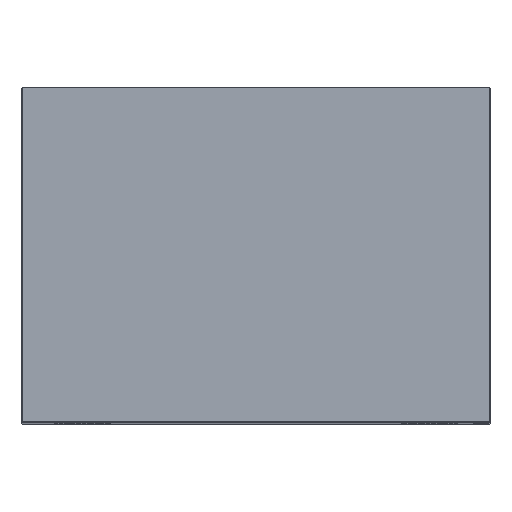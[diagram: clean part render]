
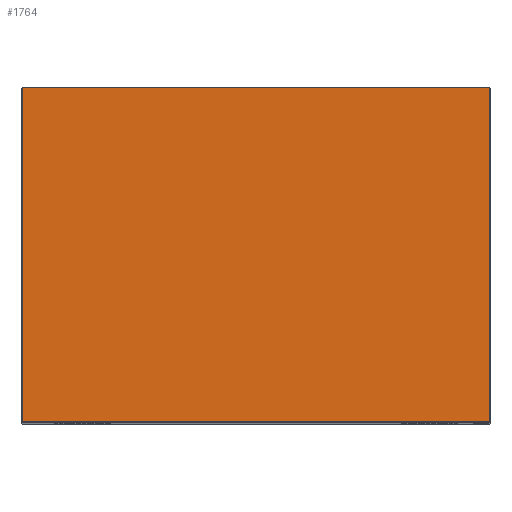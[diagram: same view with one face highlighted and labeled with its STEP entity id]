
A CAD part, top view. The second image highlights one B-rep face of the part: STEP entity #1764.
In plain terms, the highlighted planar face has unit normal (0, 0, 1).
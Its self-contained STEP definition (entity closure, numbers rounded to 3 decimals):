
#1634=CARTESIAN_POINT('',(17.49,-12.49,50.));
#1635=VERTEX_POINT('',#1634);
#1636=CARTESIAN_POINT('',(-17.49,-12.49,50.));
#1637=VERTEX_POINT('',#1636);
#1638=CARTESIAN_POINT('',(17.49,-12.49,50.));
#1639=DIRECTION('',(-1.0,0.0,0.0));
#1640=VECTOR('',#1639,34.98);
#1641=LINE('',#1638,#1640);
#1642=EDGE_CURVE('',#1635,#1637,#1641,.T.);
#1674=CARTESIAN_POINT('',(-17.49,12.49,50.));
#1675=VERTEX_POINT('',#1674);
#1676=CARTESIAN_POINT('',(-17.49,-12.49,50.));
#1677=DIRECTION('',(0.0,1.0,0.0));
#1678=VECTOR('',#1677,24.98);
#1679=LINE('',#1676,#1678);
#1680=EDGE_CURVE('',#1637,#1675,#1679,.T.);
#1705=CARTESIAN_POINT('',(17.49,12.49,50.));
#1706=VERTEX_POINT('',#1705);
#1707=CARTESIAN_POINT('',(-17.49,12.49,50.));
#1708=DIRECTION('',(1.0,0.0,0.0));
#1709=VECTOR('',#1708,34.98);
#1710=LINE('',#1707,#1709);
#1711=EDGE_CURVE('',#1675,#1706,#1710,.T.);
#1736=CARTESIAN_POINT('',(17.49,12.49,50.));
#1737=DIRECTION('',(0.0,-1.0,0.0));
#1738=VECTOR('',#1737,24.98);
#1739=LINE('',#1736,#1738);
#1740=EDGE_CURVE('',#1706,#1635,#1739,.T.);
#1753=CARTESIAN_POINT('',(0.,0.,50.));
#1754=DIRECTION('',(0.0,0.0,1.0));
#1755=DIRECTION('',(1.0,0.0,0.0));
#1756=AXIS2_PLACEMENT_3D('',#1753,#1754,#1755);
#1757=PLANE('',#1756);
#1758=ORIENTED_EDGE('',*,*,#1642,.F.);
#1759=ORIENTED_EDGE('',*,*,#1740,.F.);
#1760=ORIENTED_EDGE('',*,*,#1711,.F.);
#1761=ORIENTED_EDGE('',*,*,#1680,.F.);
#1762=EDGE_LOOP('',(#1758,#1759,#1760,#1761));
#1763=FACE_OUTER_BOUND('',#1762,.T.);
#1764=ADVANCED_FACE('',(#1763),#1757,.T.);
